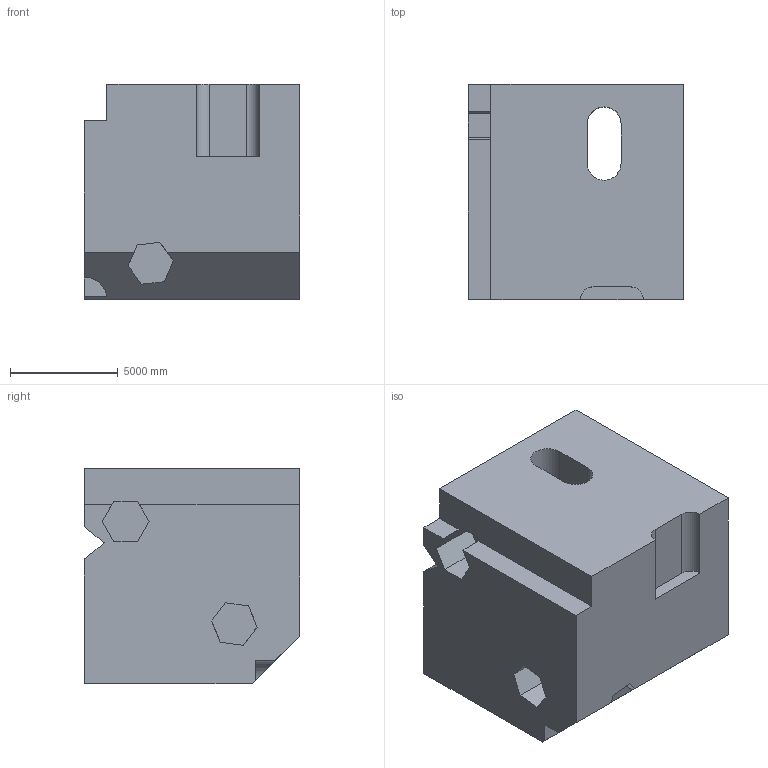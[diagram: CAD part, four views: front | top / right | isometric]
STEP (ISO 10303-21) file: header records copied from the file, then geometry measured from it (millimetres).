
FILE_DESCRIPTION (( 'STEP AP203' ), '1' );
FILE_NAME ('860.STEP', '2022-08-04T16:02:11', ( 'user' ), ( '' ), 'SwSTEP 2.0', 'SolidWorks 2021', '' );
FILE_SCHEMA (( 'CONFIG_CONTROL_DESIGN' ));
Length unit declared in the file: centimetre
Products named in the file (1): 860
Bounding box: 10000 x 10000 x 10000 mm (x, y, z)
Volume: 863014656215.6 mm3; surface area: 728884286.9 mm2
Topology: 1 solids, 1 shells, 48 faces, 141 edges, 94 vertices
Faces by surface type: plane 43, cylinder 5
Entity records: 1659 total; most frequent: CARTESIAN_POINT 287, ORIENTED_EDGE 282, DIRECTION 247, EDGE_CURVE 141, LINE 131, VECTOR 131, VERTEX_POINT 94, AXIS2_PLACEMENT_3D 58
